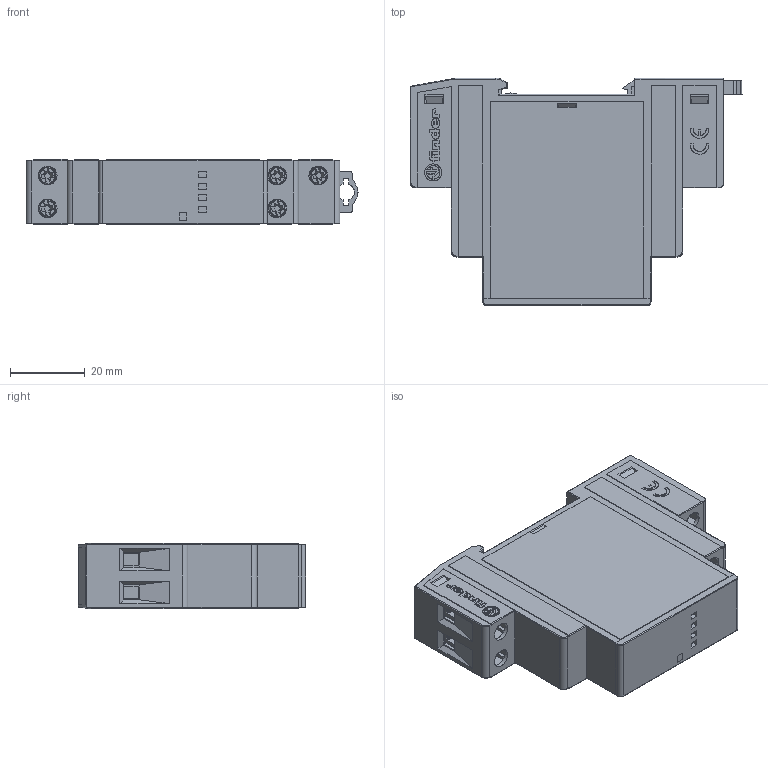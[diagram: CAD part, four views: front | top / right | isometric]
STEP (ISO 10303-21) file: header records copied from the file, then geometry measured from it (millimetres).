
FILE_DESCRIPTION(('STEP AP214'),'2;1');
FILE_NAME('Copia di 19_91---catalogo.stp','2011-02-24T10:42:08',(''),(''),'2007.1.106','THINKDESIGN','');
FILE_SCHEMA(('AUTOMOTIVE_DESIGN'));
Products named in the file (1): None
Bounding box: 88.85 x 60.8 x 17.5 mm (x, y, z)
Surface area: 18909.8 mm2 (no closed solid volume)
Topology: 0 solids, 0 shells, 1049 faces, 6508 edges, 6502 vertices
Faces by surface type: plane 827, bspline 111, cylinder 111
Full cylindrical faces by diameter (mm): 3 x7, 5 x5
Entity records: 65940 total; most frequent: CARTESIAN_POINT 20215, DIRECTION 7868, COMPOSITE_CURVE_SEGMENT 6508, TRIMMED_CURVE 5760, VECTOR 5568, LINE 5568, AXIS2_PLACEMENT_3D 1150, OUTER_BOUNDARY_CURVE 1049
